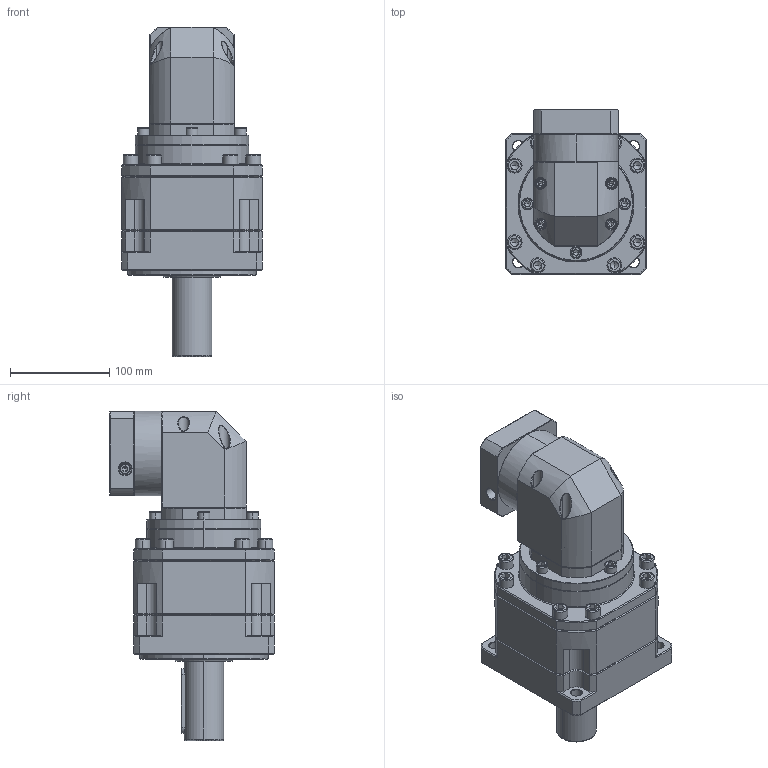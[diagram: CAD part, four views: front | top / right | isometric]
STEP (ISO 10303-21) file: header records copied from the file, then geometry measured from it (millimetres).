
FILE_DESCRIPTION (( 'STEP AP214' ), '1' );
FILE_NAME ('ZBR142A-D40-L3-P2-12.7-73-69.6X69.6-M6.step', '2023-09-02T08:38:47', ( '' ), ( '' ), 'SwSTEP 2.0', 'SolidWorks 2016', '' );
FILE_SCHEMA (( 'AUTOMOTIVE_DESIGN' ));
Length unit declared in the file: millimetre
Products named in the file (1): ZBR142A-D40-L3-P2-12.7-73-69.6X69.6-M6
Bounding box: 142 x 166.1 x 332.2 mm (x, y, z)
Volume: 3350474.6 mm3; surface area: 243811.1 mm2
Topology: 6 solids, 6 shells, 2723 faces, 7007 edges, 4412 vertices
Faces by surface type: plane 1327, cylinder 524, bspline 467, cone 391, torus 14
Entity records: 144672 total; most frequent: CARTESIAN_POINT 52477, ORIENTED_EDGE 13874, DIRECTION 11280, EDGE_CURVE 6937, VECTOR 4458, LINE 4458, VERTEX_POINT 4412, AXIS2_PLACEMENT_3D 3411
